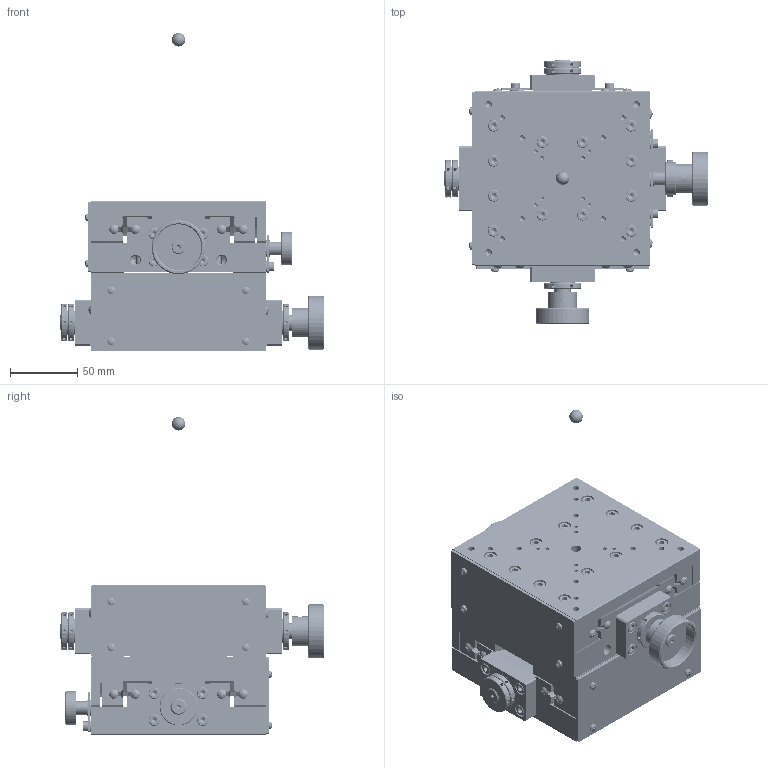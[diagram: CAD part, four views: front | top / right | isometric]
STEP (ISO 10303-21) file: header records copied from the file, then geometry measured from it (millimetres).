
FILE_DESCRIPTION (( 'STEP AP203' ), '1' );
FILE_NAME ('SH13A-RS.STEP', '2010-05-28T00:22:48', ( ' ' ), ( ' ' ), 'SwSTEP 2.0', 'SolidWorks 2009', '' );
FILE_SCHEMA (( 'CONFIG_CONTROL_DESIGN' ));
Products named in the file (7): SH13A-RM(PL); SH13A-RS.sldasm-Part-1; SH13A-RS; 000190-1110(3D)-5; 000190-1100(3D)-5; SH13A-RT(PL); 000190-1011(3D)-3
Assembly tree (6 placements, depth 3):
  SH13A-RS
    SH13A-RS.sldasm-Part-1
    SH13A-RT(PL)
      000190-1011(3D)-3
    SH13A-RM(PL)
      000190-1100(3D)-5
      000190-1110(3D)-5
Bounding box: 196 x 196 x 236 mm (x, y, z)
Volume: 1796261.5 mm3; surface area: 386985.9 mm2
Topology: 4 solids, 152 shells, 4768 faces, 10706 edges, 6175 vertices
Faces by surface type: plane 1798, cylinder 1624, cone 1256, sphere 50, torus 40
Entity records: 138552 total; most frequent: CARTESIAN_POINT 31592, DIRECTION 23834, ORIENTED_EDGE 20522, EDGE_CURVE 10261, AXIS2_PLACEMENT_3D 9287, VERTEX_POINT 6172, EDGE_LOOP 5403, VECTOR 5260
